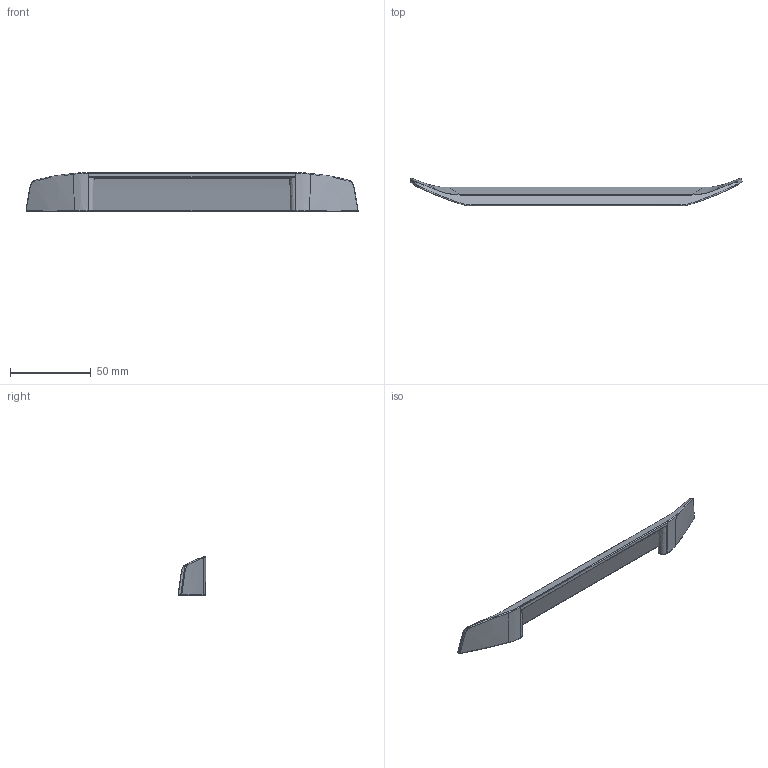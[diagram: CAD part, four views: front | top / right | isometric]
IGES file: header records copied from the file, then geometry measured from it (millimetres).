
Start section: C
Global section: file name: 8241-206.igs; native system: By Siemens PLM Incorporated; preprocessor: XPlus GENERIC/IGES 16.0.42; author: Author; organization: Title; date: 20220504.161305; units: millimetre
Bounding box: 205.91 x 17.16 x 24 mm (x, y, z)
Surface area: 14734.1 mm2 (no closed solid volume)
Topology: 0 solids, 0 shells, 86 faces, 447 edges, 447 vertices
Faces by surface type: bspline 86
